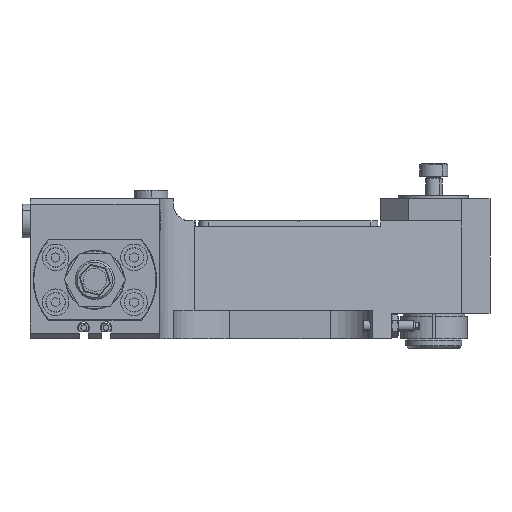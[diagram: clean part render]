
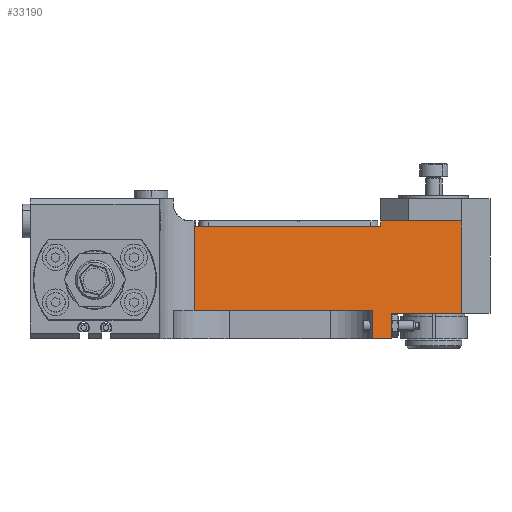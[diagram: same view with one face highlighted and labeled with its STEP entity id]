
A CAD part, left-side view. The second image highlights one B-rep face of the part: STEP entity #33190.
In plain terms, the highlighted planar face has unit normal (-0.985, -0.174, 0).
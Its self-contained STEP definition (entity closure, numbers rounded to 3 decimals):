
#1100 = FACE_OUTER_BOUND ( 'NONE', #9001, .T. ) ;
#1118 = VERTEX_POINT ( 'NONE', #1626 ) ;
#1172 = VECTOR ( 'NONE', #15165, 1000. ) ;
#1379 = ORIENTED_EDGE ( 'NONE', *, *, #13119, .T. ) ;
#1626 = CARTESIAN_POINT ( 'NONE',  ( -25.642, -40., 10. ) ) ;
#1754 = DIRECTION ( 'NONE',  ( -0.174, 0.985, 0. ) ) ;
#1861 = LINE ( 'NONE', #30452, #10579 ) ;
#2267 = CARTESIAN_POINT ( 'NONE',  ( -25.113, -43., 40. ) ) ;
#3471 = DIRECTION ( 'NONE',  ( 0.174, -0.985, 0. ) ) ;
#3579 = DIRECTION ( 'NONE',  ( 0.174, -0.985, 0. ) ) ;
#4282 = EDGE_CURVE ( 'NONE', #6100, #14380, #38384, .T. ) ;
#4582 = VECTOR ( 'NONE', #37129, 1000. ) ;
#4967 = VECTOR ( 'NONE', #44612, 1000. ) ;
#6082 = EDGE_CURVE ( 'NONE', #16157, #46063, #26874, .T. ) ;
#6100 = VERTEX_POINT ( 'NONE', #22020 ) ;
#6387 = ORIENTED_EDGE ( 'NONE', *, *, #32110, .T. ) ;
#6468 = EDGE_CURVE ( 'NONE', #6100, #37986, #12440, .T. ) ;
#6854 = CARTESIAN_POINT ( 'NONE',  ( -20., -72., 0. ) ) ;
#7079 = DIRECTION ( 'NONE',  ( -0.174, 0.985, 0. ) ) ;
#7227 = VECTOR ( 'NONE', #14122, 1000. ) ;
#7423 = ORIENTED_EDGE ( 'NONE', *, *, #14929, .F. ) ;
#7503 = CARTESIAN_POINT ( 'NONE',  ( -20., -72., 42. ) ) ;
#9001 = EDGE_LOOP ( 'NONE', ( #28476, #15906, #28703, #1379, #7423, #35659, #22422, #22954, #11743, #23800, #41494, #6387 ) ) ;
#9841 = EDGE_CURVE ( 'NONE', #14521, #14380, #1861, .T. ) ;
#10578 = CARTESIAN_POINT ( 'NONE',  ( -25.642, -40., 0. ) ) ;
#10579 = VECTOR ( 'NONE', #12303, 1000. ) ;
#11026 = CARTESIAN_POINT ( 'NONE',  ( -20., -72., 42. ) ) ;
#11743 = ORIENTED_EDGE ( 'NONE', *, *, #12845, .F. ) ;
#12303 = DIRECTION ( 'NONE',  ( 0., 0., 1. ) ) ;
#12440 = LINE ( 'NONE', #6854, #7227 ) ;
#12595 = DIRECTION ( 'NONE',  ( -0.174, 0.985, 0. ) ) ;
#12685 = CARTESIAN_POINT ( 'NONE',  ( -20., -72., 42. ) ) ;
#12845 = EDGE_CURVE ( 'NONE', #16157, #37986, #21815, .T. ) ;
#13119 = EDGE_CURVE ( 'NONE', #1118, #42596, #37903, .T. ) ;
#14122 = DIRECTION ( 'NONE',  ( 0., 0., 1. ) ) ;
#14380 = VERTEX_POINT ( 'NONE', #43246 ) ;
#14521 = VERTEX_POINT ( 'NONE', #15812 ) ;
#14929 = EDGE_CURVE ( 'NONE', #14521, #42596, #36676, .T. ) ;
#15165 = DIRECTION ( 'NONE',  ( -0.174, 0.985, 0. ) ) ;
#15534 = CARTESIAN_POINT ( 'NONE',  ( -36.858, 23.605, 42. ) ) ;
#15812 = CARTESIAN_POINT ( 'NONE',  ( -24.408, -47., 0. ) ) ;
#15906 = ORIENTED_EDGE ( 'NONE', *, *, #44786, .T. ) ;
#16157 = VERTEX_POINT ( 'NONE', #37428 ) ;
#16714 = EDGE_CURVE ( 'NONE', #1118, #29207, #26592, .T. ) ;
#18825 = PLANE ( 'NONE',  #34028 ) ;
#18992 = VERTEX_POINT ( 'NONE', #23066 ) ;
#19438 = CARTESIAN_POINT ( 'NONE',  ( -20., -72., 9. ) ) ;
#20107 = CARTESIAN_POINT ( 'NONE',  ( -20., -72., 40. ) ) ;
#21815 = LINE ( 'NONE', #7503, #42601 ) ;
#22020 = CARTESIAN_POINT ( 'NONE',  ( -20., -72., 9. ) ) ;
#22422 = ORIENTED_EDGE ( 'NONE', *, *, #4282, .F. ) ;
#22954 = ORIENTED_EDGE ( 'NONE', *, *, #6468, .T. ) ;
#23040 = CARTESIAN_POINT ( 'NONE',  ( -20., -72., 0. ) ) ;
#23066 = CARTESIAN_POINT ( 'NONE',  ( -36.751, 23., 42. ) ) ;
#23800 = ORIENTED_EDGE ( 'NONE', *, *, #6082, .T. ) ;
#23833 = VERTEX_POINT ( 'NONE', #15534 ) ;
#24503 = CARTESIAN_POINT ( 'NONE',  ( -25.642, -40., 0. ) ) ;
#25731 = VECTOR ( 'NONE', #7079, 1000. ) ;
#26592 = LINE ( 'NONE', #44509, #1172 ) ;
#26758 = DIRECTION ( 'NONE',  ( 0.985, 0.174, 0. ) ) ;
#26874 = LINE ( 'NONE', #36693, #4967 ) ;
#27672 = VECTOR ( 'NONE', #3579, 1000. ) ;
#28263 = DIRECTION ( 'NONE',  ( 0., 0., -1. ) ) ;
#28476 = ORIENTED_EDGE ( 'NONE', *, *, #37075, .F. ) ;
#28703 = ORIENTED_EDGE ( 'NONE', *, *, #16714, .F. ) ;
#29207 = VERTEX_POINT ( 'NONE', #45474 ) ;
#29365 = CARTESIAN_POINT ( 'NONE',  ( -36.751, 23., 0. ) ) ;
#29707 = CARTESIAN_POINT ( 'NONE',  ( -36.858, 23.605, 0. ) ) ;
#30452 = CARTESIAN_POINT ( 'NONE',  ( -24.408, -47., 0. ) ) ;
#30506 = VERTEX_POINT ( 'NONE', #32879 ) ;
#32110 = EDGE_CURVE ( 'NONE', #30506, #18992, #42091, .T. ) ;
#32778 = LINE ( 'NONE', #29707, #4582 ) ;
#32879 = CARTESIAN_POINT ( 'NONE',  ( -36.751, 23., 40. ) ) ;
#33031 = DIRECTION ( 'NONE',  ( 0., 0., 1. ) ) ;
#33190 = ADVANCED_FACE ( 'NONE', ( #1100 ), #18825, .F. ) ;
#34028 = AXIS2_PLACEMENT_3D ( 'NONE', #23040, #26758, #12595 ) ;
#35659 = ORIENTED_EDGE ( 'NONE', *, *, #9841, .T. ) ;
#36216 = VECTOR ( 'NONE', #28263, 1000. ) ;
#36676 = LINE ( 'NONE', #39928, #25731 ) ;
#36693 = CARTESIAN_POINT ( 'NONE',  ( -25.113, -43., 0. ) ) ;
#37075 = EDGE_CURVE ( 'NONE', #23833, #18992, #37981, .T. ) ;
#37129 = DIRECTION ( 'NONE',  ( 0., 0., -1. ) ) ;
#37247 = VECTOR ( 'NONE', #45734, 1000. ) ;
#37428 = CARTESIAN_POINT ( 'NONE',  ( -25.113, -43., 42. ) ) ;
#37903 = LINE ( 'NONE', #10578, #36216 ) ;
#37981 = LINE ( 'NONE', #11026, #27672 ) ;
#37986 = VERTEX_POINT ( 'NONE', #12685 ) ;
#38384 = LINE ( 'NONE', #19438, #37247 ) ;
#38918 = LINE ( 'NONE', #20107, #47612 ) ;
#39928 = CARTESIAN_POINT ( 'NONE',  ( -20., -72., 0. ) ) ;
#40311 = VECTOR ( 'NONE', #33031, 1000. ) ;
#41222 = EDGE_CURVE ( 'NONE', #46063, #30506, #38918, .T. ) ;
#41494 = ORIENTED_EDGE ( 'NONE', *, *, #41222, .T. ) ;
#42091 = LINE ( 'NONE', #29365, #40311 ) ;
#42596 = VERTEX_POINT ( 'NONE', #24503 ) ;
#42601 = VECTOR ( 'NONE', #3471, 1000. ) ;
#43246 = CARTESIAN_POINT ( 'NONE',  ( -24.408, -47., 9. ) ) ;
#44509 = CARTESIAN_POINT ( 'NONE',  ( -20., -72., 10. ) ) ;
#44612 = DIRECTION ( 'NONE',  ( 0., 0., -1. ) ) ;
#44786 = EDGE_CURVE ( 'NONE', #23833, #29207, #32778, .T. ) ;
#45474 = CARTESIAN_POINT ( 'NONE',  ( -36.858, 23.605, 10. ) ) ;
#45734 = DIRECTION ( 'NONE',  ( -0.174, 0.985, 0. ) ) ;
#46063 = VERTEX_POINT ( 'NONE', #2267 ) ;
#47612 = VECTOR ( 'NONE', #1754, 1000. ) ;
